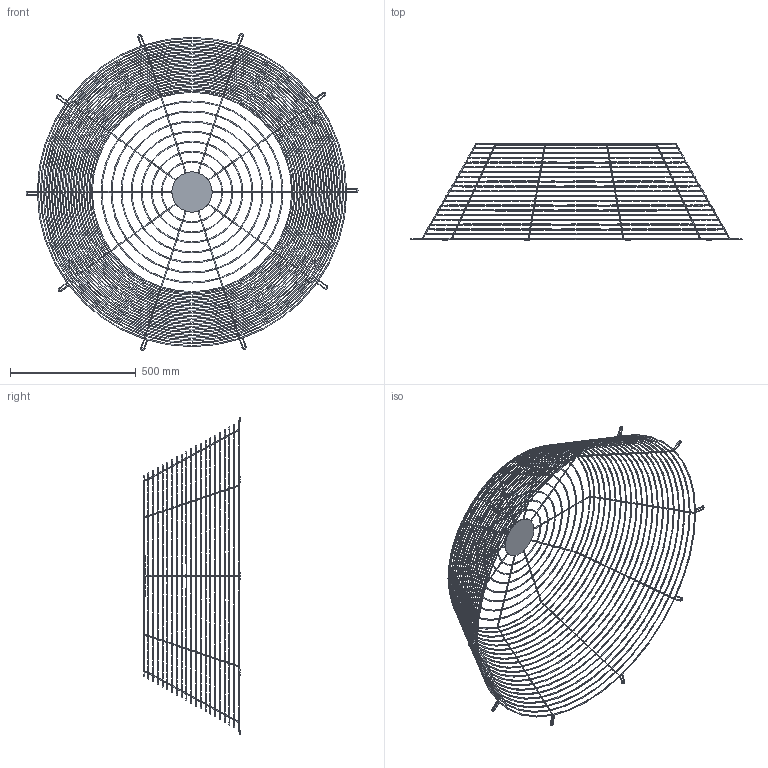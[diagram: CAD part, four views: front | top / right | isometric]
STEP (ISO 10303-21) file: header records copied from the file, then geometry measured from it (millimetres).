
FILE_DESCRIPTION(('STEP AP214'),'1');
FILE_NAME('accessory_5138828800.stp','2017-10-09T10:17:24',('TraceParts'),('TraceParts S.A.'),'Spatial InterOp 3D',' ',' ');
FILE_SCHEMA(('automotive_design'));
Length unit declared in the file: millimetre
Products named in the file (1): accessory_5138828800
Bounding box: 1320 x 382 x 1259.88 mm (x, y, z)
Volume: 1149470 mm3; surface area: 1101586.1 mm2
Topology: 1 solids, 1 shells, 430 faces, 2780 edges, 1760 vertices
Faces by surface type: torus 196, cylinder 152, plane 62, sphere 20
Entity records: 63364 total; most frequent: CARTESIAN_POINT 41183, ORIENTED_EDGE 5480, EDGE_CURVE 2740, DIRECTION 2692, VERTEX_POINT 1760, B_SPLINE_CURVE_WITH_KNOTS 1598, AXIS2_PLACEMENT_3D 1119, CIRCLE 668
